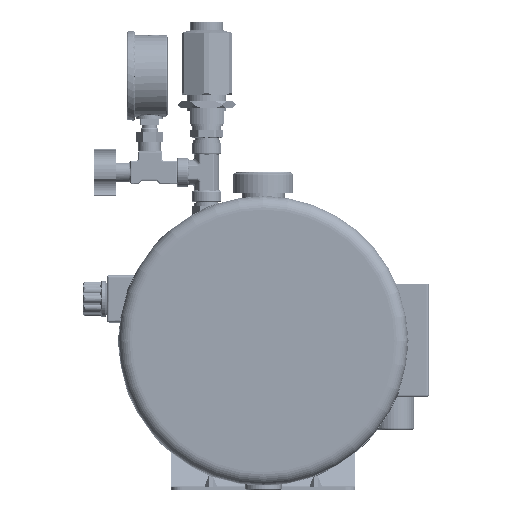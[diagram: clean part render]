
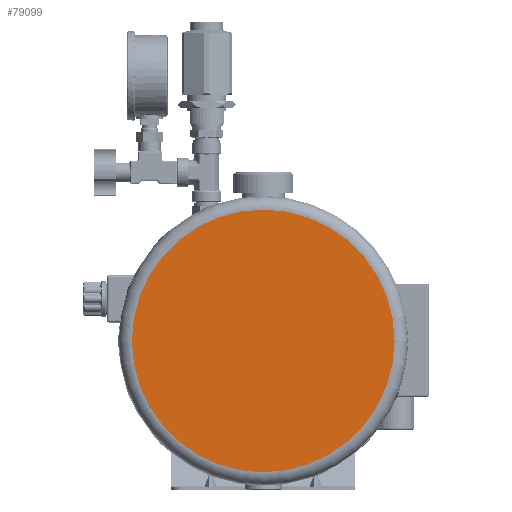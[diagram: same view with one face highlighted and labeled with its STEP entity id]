
A CAD part, left-side view. The second image highlights one B-rep face of the part: STEP entity #79099.
In plain terms, the highlighted planar face has unit normal (-1, 0, 0).
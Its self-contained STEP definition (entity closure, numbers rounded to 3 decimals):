
#15459=PLANE('',#85650);
#18369=FACE_OUTER_BOUND('',#22783,.T.);
#22783=EDGE_LOOP('',(#60830,#60831));
#27446=CIRCLE('',#85651,100.);
#27447=CIRCLE('',#85652,100.);
#34192=VERTEX_POINT('',#136548);
#34193=VERTEX_POINT('',#136549);
#43710=EDGE_CURVE('',#34192,#34193,#27446,.T.);
#43711=EDGE_CURVE('',#34193,#34192,#27447,.T.);
#60830=ORIENTED_EDGE('',*,*,#43710,.T.);
#60831=ORIENTED_EDGE('',*,*,#43711,.T.);
#79099=ADVANCED_FACE('',(#18369),#15459,.T.);
#85650=AXIS2_PLACEMENT_3D('',#136547,#101993,#101994);
#85651=AXIS2_PLACEMENT_3D('',#136550,#101995,#101996);
#85652=AXIS2_PLACEMENT_3D('',#136551,#101997,#101998);
#101993=DIRECTION('center_axis',(-1.,0.,0.));
#101994=DIRECTION('ref_axis',(0.,-1.,0.));
#101995=DIRECTION('center_axis',(-1.,0.,0.));
#101996=DIRECTION('ref_axis',(0.,-1.,0.));
#101997=DIRECTION('center_axis',(-1.,0.,0.));
#101998=DIRECTION('ref_axis',(0.,-1.,0.));
#136547=CARTESIAN_POINT('Origin',(-437.,1233.077,-20.89));
#136548=CARTESIAN_POINT('',(-437.,1133.077,-20.89));
#136549=CARTESIAN_POINT('',(-437.,1333.077,-20.89));
#136550=CARTESIAN_POINT('Origin',(-437.,1233.077,-20.89));
#136551=CARTESIAN_POINT('Origin',(-437.,1233.077,-20.89));
